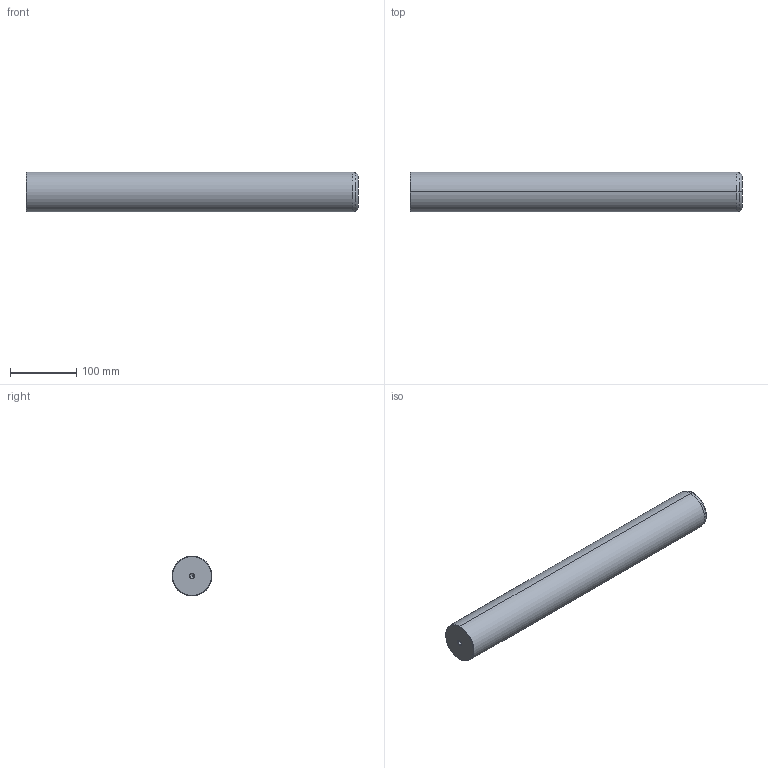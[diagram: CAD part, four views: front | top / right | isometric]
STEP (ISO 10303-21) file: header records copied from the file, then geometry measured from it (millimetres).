
FILE_DESCRIPTION(('CATIA V5 STEP Exchange'),'2;1');
FILE_NAME('C:\Users\Utente\Desktop\IO LAVORO\3D X SITO CF\X SITO\720\720-60x500.stp','2020-12-30T21:30:45+00:00',('none'),('none'),'CATIA Version 5 Release 20 GA (IN-10)','CATIA V5 STEP AP203','none');
FILE_SCHEMA(('CONFIG_CONTROL_DESIGN'));
Length unit declared in the file: millimetre
Products named in the file (1): 720-60x500
Bounding box: 500 x 60 x 60 mm (x, y, z)
Volume: 1409881.7 mm3; surface area: 100222.9 mm2
Topology: 1 solids, 1 shells, 22 faces, 62 edges, 40 vertices
Faces by surface type: cone 12, cylinder 6, plane 2, torus 2
Entity records: 806 total; most frequent: CARTESIAN_POINT 229, ORIENTED_EDGE 116, DIRECTION 93, EDGE_CURVE 58, AXIS2_PLACEMENT_3D 54, VERTEX_POINT 40, CIRCLE 31, EDGE_LOOP 24
